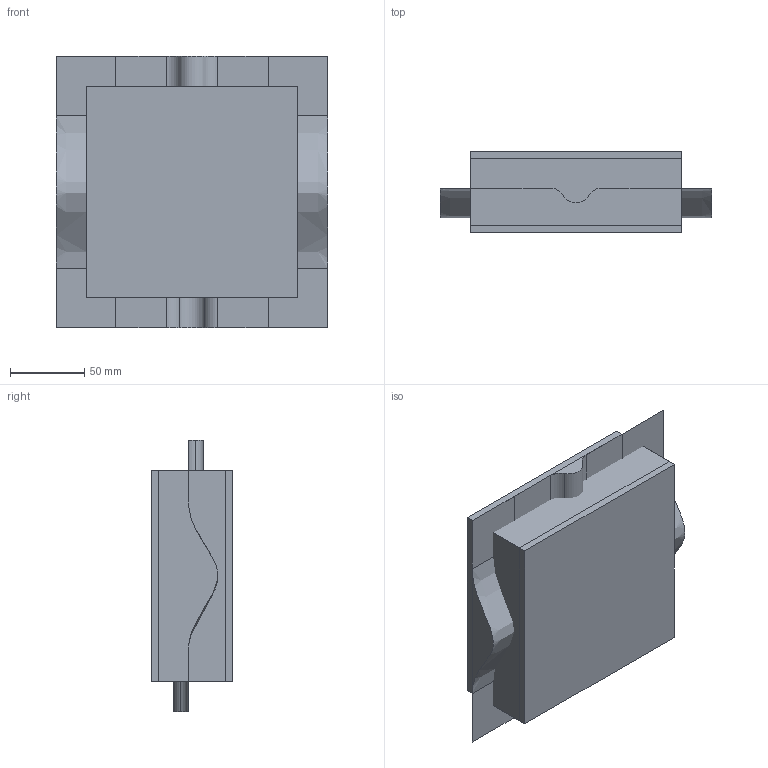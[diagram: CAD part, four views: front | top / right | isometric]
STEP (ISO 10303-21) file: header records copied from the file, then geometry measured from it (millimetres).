
FILE_DESCRIPTION(('CATIA V5 STEP Exchange'),'2;1');
FILE_NAME('C:\_Andres\UNIVERSIDAD\IQS\ASIGNATURAS\DAO\EXF\EXF-16172c\2inicio\Beteta_Pozo_Ej02_v3.stp','2017-03-05T15:45:14+00:00',('none'),('none'),'CATIA Version 5-6 Release 2014 SP1 HF18','CATIA V5 STEP AP203','none');
FILE_SCHEMA(('CONFIG_CONTROL_DESIGN'));
Length unit declared in the file: millimetre
Products named in the file (1): Beteta_Pozo_Ej02_v3
Bounding box: 183 x 55 x 183 mm (x, y, z)
Surface area: 212314.1 mm2
Topology: 3 solids, 10 shells, 72 faces, 205 edges, 150 vertices
Faces by surface type: bspline 32, plane 32, cylinder 6, extrusion 2
Entity records: 6788 total; most frequent: CARTESIAN_POINT 5471, ORIENTED_EDGE 288, DIRECTION 151, EDGE_CURVE 132, VERTEX_POINT 84, VECTOR 77, LINE 75, ADVANCED_FACE 72
